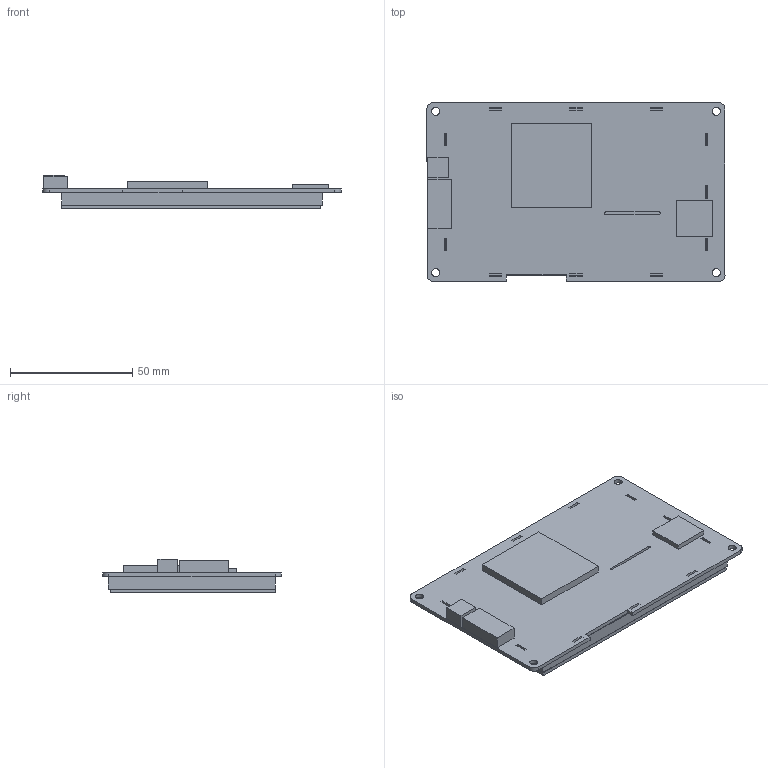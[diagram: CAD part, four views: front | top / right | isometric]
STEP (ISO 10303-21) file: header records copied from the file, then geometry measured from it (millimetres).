
FILE_DESCRIPTION((''),'2;1');
FILE_NAME('DMG48270S043-03W','2022-09-26T',('Administrator'),(''),'PRO/ENGINEER BY PARAMETRIC TECHNOLOGY CORPORATION, 2011310','PRO/ENGINEER BY PARAMETRIC TECHNOLOGY CORPORATION, 2011310','');
FILE_SCHEMA(('CONFIG_CONTROL_DESIGN','SHAPE_APPEARANCE_LAYERS_GROUPS'));
Products named in the file (1): DMG48270S043-03W
Bounding box: 121.93 x 73.15 x 13.7 mm (x, y, z)
Volume: 64005.7 mm3; surface area: 33424.4 mm2
Topology: 1 solids, 2 shells, 121 faces, 14593 edges, 25162 vertices
Faces by surface type: plane 107, cylinder 14
Entity records: 122660 total; most frequent: DIRECTION 18430, CARTESIAN_POINT 14935, PRESENTATION_STYLE_ASSIGNMENT 14605, STYLED_ITEM 14605, CURVE_STYLE 14598, TRIMMED_CURVE 14250, VECTOR 11000, LINE 11000
